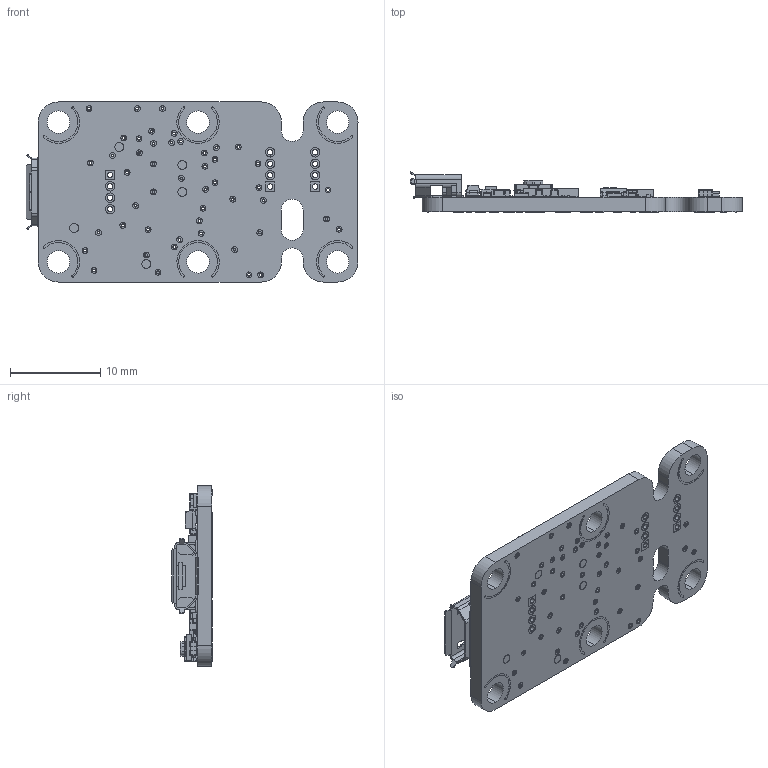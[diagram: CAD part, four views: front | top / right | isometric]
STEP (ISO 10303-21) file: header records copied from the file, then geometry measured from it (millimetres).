
FILE_DESCRIPTION (( 'STEP AP214' ), '1' );
FILE_NAME ('LIGHTMK5.STEP', '2024-07-18T13:52:53', ( '' ), ( '' ), 'SwSTEP 2.0', 'SolidWorks 2008', '' );
FILE_SCHEMA (( 'AUTOMOTIVE_DESIGN' ));
Length unit declared in the file: millimetre
Products named in the file (25): R2; REG1; sens1; R12; SW1; R11; T1; LIGHTMK5; U1; USB1; R4; YLED; R1; sensor1; R5; R8; C18; C2; C9; PCB; C16; C19; FLASH1; PVSS; C10
Assembly tree (30 placements, depth 2):
  LIGHTMK5
    R1
    C9  x6
    R11
    SW1
    YLED
    U1
    T1
    sens1
    R8  x3
    R2
    USB1
    C10
    PCB
    C2
    C16
    C19
    C18
    FLASH1
    R12
    REG1
    R5
    R4
    sensor1
  PVSS
Bounding box: 36.85 x 4.46 x 20 mm (x, y, z)
Volume: 1162.1 mm3; surface area: 2409 mm2
Topology: 43 solids, 43 shells, 4874 faces, 12594 edges, 8178 vertices
Faces by surface type: plane 3057, cylinder 1226, bspline 496, sphere 88, torus 7
Entity records: 204938 total; most frequent: CARTESIAN_POINT 51421, ORIENTED_EDGE 23262, DIRECTION 21029, EDGE_CURVE 11631, LINE 8387, VECTOR 8387, VERTEX_POINT 7658, AXIS2_PLACEMENT_3D 6321
